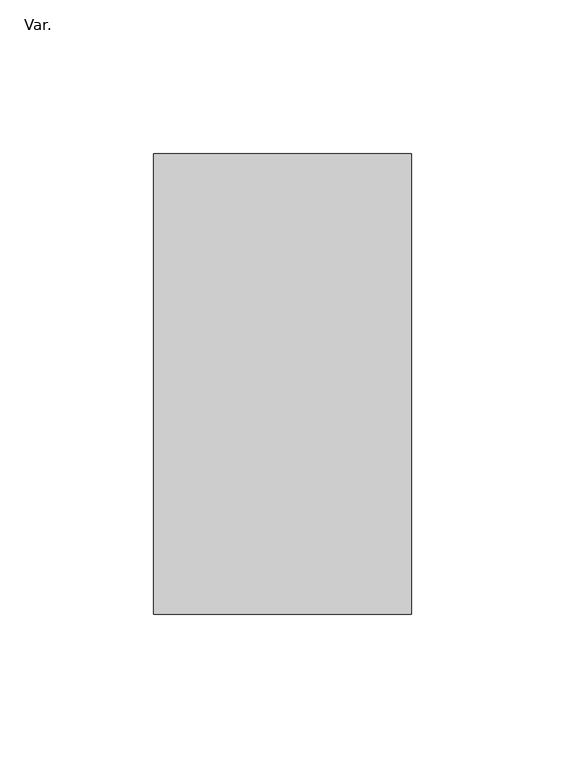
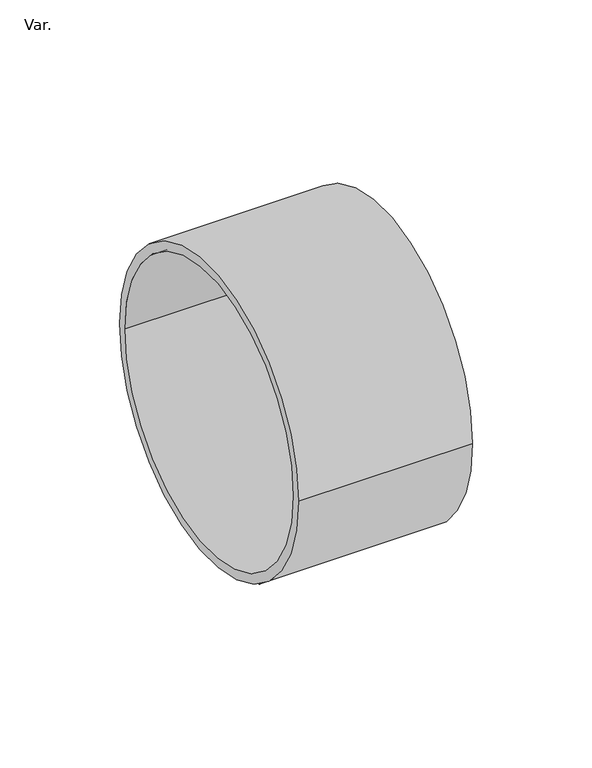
"""IFC4 building model written with IfcOpenShell, lengths in millimetres: pipe fitting geometry, AmancoWavin_ConexõesdeTubos_EsgotoZNãoUsarCaixaSifonadaSilentiumProlongamento : Var.."""

from ifc_helpers import new_model, si_unit, point, frame, origin, origin_2d, place, context, project, spatial, circle_curve, trimmed, segment, composite_curve, outline, extrude, source, transform, mapped, element, save


def var_122aa8a0(model_context):
    return source(origin(), model_context, "Body", "SweptSolid", [
        extrude(outline(composite_curve([segment(trimmed(circle_curve(origin_2d(), 75.0), [point((-75.0, 0.0))], [point((75.0, 0.0))], False, "CARTESIAN"), True, "CONTINUOUS"), segment(trimmed(circle_curve(origin_2d(), 75.0), [point((75.0, 0.0))], [point((-75.0, 0.0))], False, "CARTESIAN"), True, "CONTINUOUS")], self_intersect=False), holes=[composite_curve([segment(trimmed(circle_curve(origin_2d(), 70.4), [point((-70.4, 0.0))], [point((70.4, 0.0))], True, "CARTESIAN"), True, "CONTINUOUS"), segment(trimmed(circle_curve(origin_2d(), 70.4), [point((70.4, 0.0))], [point((-70.4, 0.0))], True, "CARTESIAN"), True, "CONTINUOUS")], self_intersect=False)]), frame((0.0, 0.0, 0.0), z_axis=(1.0, 0.0, 0.0), x_axis=(0.0, 1.0, 0.0)), (0.0, 0.0, 1.0), 84.0),
    ])


if __name__ == "__main__":
    model = new_model("IFC4")
    model_context = context("Model", 3, world=origin())
    ifc_project = project(units=[si_unit("LENGTHUNIT", "METRE", prefix="MILLI")], contexts=[model_context])
    site = spatial("IfcSite", under=ifc_project)
    building = spatial("IfcBuilding", under=site)
    placement = place(None, origin())
    var_shape = var_122aa8a0(model_context)
    element("IfcPipeFitting", 1, ObjectType="AmancoWavin_ConexõesdeTubos_EsgotoZNãoUsarCaixaSifonadaSilentiumProlongamento : Var.", at=placement, inside=building, context=model_context, shape_type="MappedRepresentation", body=[
        mapped(var_shape, transform((0.0, 0.0, 0.0), x_axis=(1.0, 0.0, 0.0), y_axis=(0.0, 1.0, 0.0), z_axis=(0.0, 0.0, 1.0))),
    ])
    save(model, "model.ifc")
